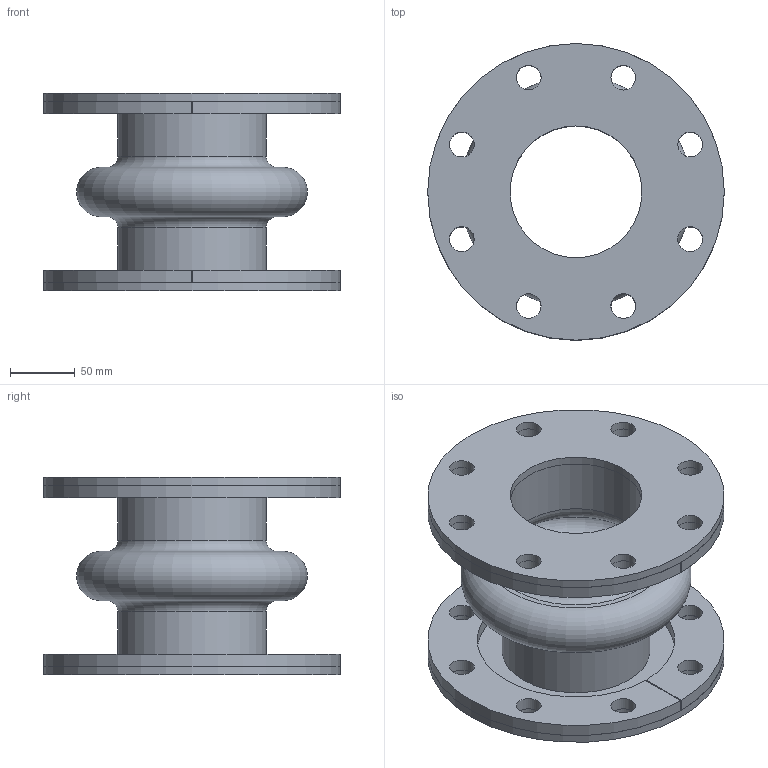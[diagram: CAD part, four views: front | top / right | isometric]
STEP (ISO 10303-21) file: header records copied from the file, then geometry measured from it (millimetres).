
FILE_DESCRIPTION(/* description */ (''),/* implementation_level */ '2;1');
FILE_NAME(/* name */ '4x6.stp',/* time_stamp */ '2026-07-21T15:58:42-05:00',/* author */ ('linda'),/* organization */ (''),/* preprocessor_version */ 'ST-DEVELOPER v20.1',/* originating_system */ 'Autodesk Inventor 2026',/* authorisation */ '');
FILE_SCHEMA (('AUTOMOTIVE_DESIGN { 1 0 10303 214 3 1 1 }'));
Length unit declared in the file: inch
Products named in the file (1): Part16
Bounding box: 228.6 x 228.6 x 152.4 mm (x, y, z)
Volume: 1228358.8 mm3; surface area: 395675.5 mm2
Topology: 5 solids, 5 shells, 78 faces, 186 edges, 124 vertices
Faces by surface type: cylinder 48, plane 24, torus 6
Full cylindrical faces by diameter (mm): 19.05 x32, 101.6 x4, 114.3 x2, 228.6 x2
Entity records: 2593 total; most frequent: DIRECTION 458, CARTESIAN_POINT 389, ORIENTED_EDGE 372, AXIS2_PLACEMENT_3D 193, EDGE_CURVE 186, EDGE_LOOP 150, VERTEX_POINT 124, CIRCLE 114
